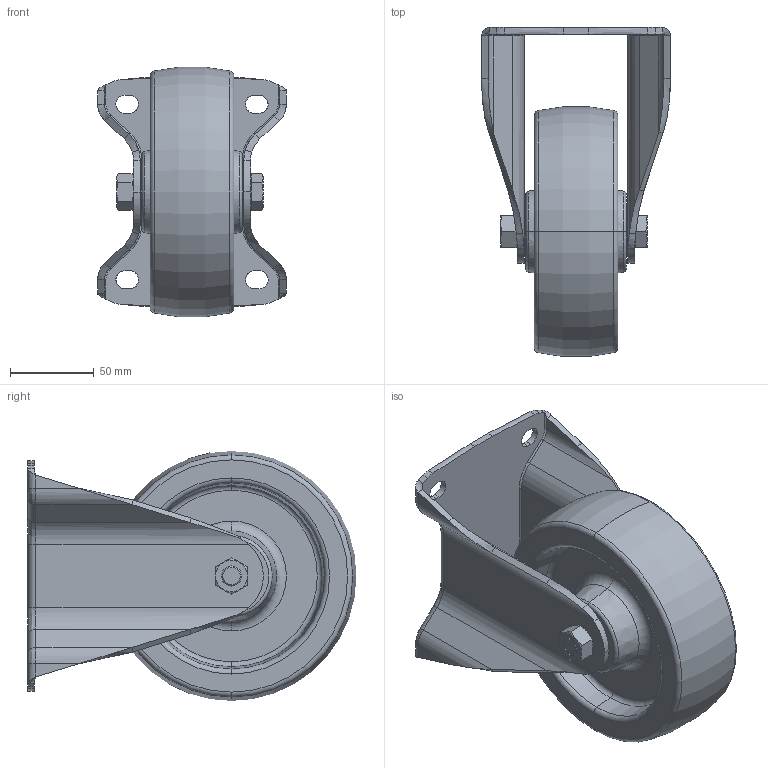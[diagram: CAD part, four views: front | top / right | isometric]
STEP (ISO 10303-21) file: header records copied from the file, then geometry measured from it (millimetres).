
FILE_DESCRIPTION (( 'STEP AP214' ), '1' );
FILE_NAME ('BKX-SPO_150G_049924-214.step', '2013-03-02T14:18:48', ( '' ), ( '' ), 'SwSTEP 2.0', 'SolidWorks 2012', '' );
FILE_SCHEMA (( 'AUTOMOTIVE_DESIGN' ));
Length unit declared in the file: millimetre
Products named in the file (5): SPO_G15_SPO_150_20G_006940; SPO-G_G15_SPO_150_20G_006940; GH-BKX_160_G15; AM_LK_12x70x4_G; BKX-SPO_150G_049924-214
Assembly tree (4 placements, depth 3):
  BKX-SPO_150G_049924-214
    AM_LK_12x70x4_G
    GH-BKX_160_G15
    SPO_G15_SPO_150_20G_006940
      SPO-G_G15_SPO_150_20G_006940
Bounding box: 113 x 196.71 x 149.42 mm (x, y, z)
Volume: 785607.6 mm3; surface area: 154428.2 mm2
Topology: 3 solids, 3 shells, 758 faces, 1954 edges, 1257 vertices
Faces by surface type: plane 381, bspline 268, cylinder 48, cone 39, torus 22
Entity records: 42863 total; most frequent: CARTESIAN_POINT 17689, ORIENTED_EDGE 3908, DIRECTION 2565, EDGE_CURVE 1954, VERTEX_POINT 1257, VECTOR 1227, LINE 1227, EDGE_LOOP 823
